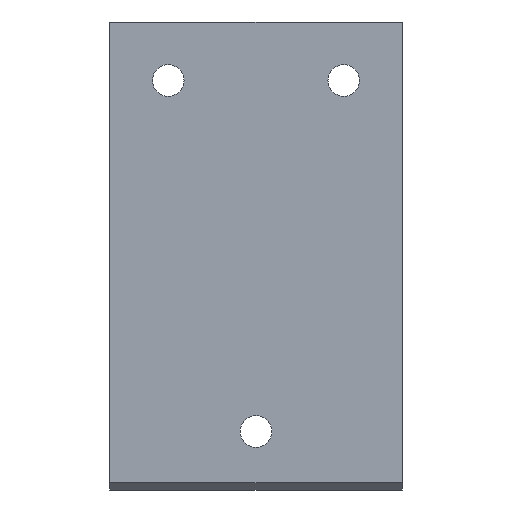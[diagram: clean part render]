
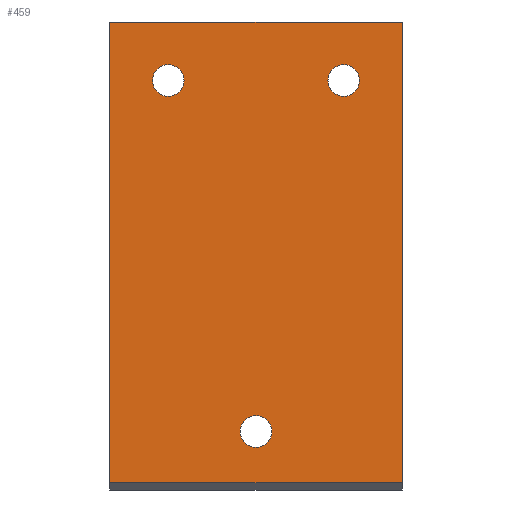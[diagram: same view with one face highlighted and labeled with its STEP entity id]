
A CAD part, left-side view. The second image highlights one B-rep face of the part: STEP entity #459.
In plain terms, the highlighted planar face has unit normal (-1, 0, 0).
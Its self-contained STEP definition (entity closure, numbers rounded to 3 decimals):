
#8 = EDGE_CURVE ( 'NONE', #5713, #4499, #3887, .T. ) ;
#28 = DIRECTION ( 'NONE',  ( 1., 0., 0. ) ) ;
#117 = DIRECTION ( 'NONE',  ( 0., 1., 0. ) ) ;
#143 = DIRECTION ( 'NONE',  ( 1., 0., 0. ) ) ;
#157 = CARTESIAN_POINT ( 'NONE',  ( 0., 0., 101.5 ) ) ;
#168 = CARTESIAN_POINT ( 'NONE',  ( 0., 0., 0. ) ) ;
#459 = ADVANCED_FACE ( 'NONE', ( #6992, #852, #1039, #5416 ), #3411, .F. ) ;
#494 = CARTESIAN_POINT ( 'NONE',  ( 0., 125., 3. ) ) ;
#694 = EDGE_LOOP ( 'NONE', ( #7690, #2822 ) ) ;
#754 = EDGE_CURVE ( 'NONE', #1990, #2594, #4668, .T. ) ;
#816 = DIRECTION ( 'NONE',  ( 1., 0., 0. ) ) ;
#852 = FACE_BOUND ( 'NONE', #1809, .T. ) ;
#964 = ORIENTED_EDGE ( 'NONE', *, *, #7516, .T. ) ;
#1039 = FACE_BOUND ( 'NONE', #694, .T. ) ;
#1058 = VERTEX_POINT ( 'NONE', #1382 ) ;
#1108 = CARTESIAN_POINT ( 'NONE',  ( 0., 100., 175. ) ) ;
#1231 = CARTESIAN_POINT ( 'NONE',  ( 0., 62.5, 25. ) ) ;
#1242 = DIRECTION ( 'NONE',  ( 0., -1., 0. ) ) ;
#1345 = LINE ( 'NONE', #2258, #4369 ) ;
#1382 = CARTESIAN_POINT ( 'NONE',  ( 0., 0., 3. ) ) ;
#1420 = ORIENTED_EDGE ( 'NONE', *, *, #1846, .F. ) ;
#1499 = CARTESIAN_POINT ( 'NONE',  ( 0., 18.25, 175. ) ) ;
#1547 = VECTOR ( 'NONE', #3423, 1000. ) ;
#1564 = DIRECTION ( 'NONE',  ( 1., 0., 0. ) ) ;
#1809 = EDGE_LOOP ( 'NONE', ( #6356, #6956 ) ) ;
#1827 = DIRECTION ( 'NONE',  ( 0., -1., 0. ) ) ;
#1846 = EDGE_CURVE ( 'NONE', #1893, #6765, #4754, .T. ) ;
#1893 = VERTEX_POINT ( 'NONE', #494 ) ;
#1975 = DIRECTION ( 'NONE',  ( 0., 0., -1. ) ) ;
#1990 = VERTEX_POINT ( 'NONE', #1499 ) ;
#2086 = VECTOR ( 'NONE', #1975, 1000. ) ;
#2246 = ORIENTED_EDGE ( 'NONE', *, *, #3257, .F. ) ;
#2258 = CARTESIAN_POINT ( 'NONE',  ( 0., 62.5, 200. ) ) ;
#2298 = DIRECTION ( 'NONE',  ( 1., 0., 0. ) ) ;
#2456 = AXIS2_PLACEMENT_3D ( 'NONE', #5129, #1564, #5727 ) ;
#2594 = VERTEX_POINT ( 'NONE', #6191 ) ;
#2636 = CIRCLE ( 'NONE', #5873, 6.75 ) ;
#2749 = EDGE_CURVE ( 'NONE', #1058, #1893, #5528, .T. ) ;
#2822 = ORIENTED_EDGE ( 'NONE', *, *, #7749, .T. ) ;
#3044 = EDGE_CURVE ( 'NONE', #6765, #6235, #1345, .T. ) ;
#3257 = EDGE_CURVE ( 'NONE', #6235, #1058, #7014, .T. ) ;
#3411 = PLANE ( 'NONE',  #5204 ) ;
#3423 = DIRECTION ( 'NONE',  ( 0., 0., 1. ) ) ;
#3483 = VERTEX_POINT ( 'NONE', #6928 ) ;
#3601 = AXIS2_PLACEMENT_3D ( 'NONE', #5848, #2298, #6424 ) ;
#3641 = CARTESIAN_POINT ( 'NONE',  ( 0., 62.5, 25. ) ) ;
#3750 = EDGE_LOOP ( 'NONE', ( #964, #6178 ) ) ;
#3840 = AXIS2_PLACEMENT_3D ( 'NONE', #1231, #5386, #1827 ) ;
#3870 = CIRCLE ( 'NONE', #3601, 6.75 ) ;
#3887 = CIRCLE ( 'NONE', #7668, 6.75 ) ;
#3960 = CARTESIAN_POINT ( 'NONE',  ( 0., 125., 101.5 ) ) ;
#3990 = VECTOR ( 'NONE', #4427, 1000. ) ;
#4077 = CARTESIAN_POINT ( 'NONE',  ( 0., 55.75, 25. ) ) ;
#4091 = CARTESIAN_POINT ( 'NONE',  ( 0., 106.75, 175. ) ) ;
#4135 = VERTEX_POINT ( 'NONE', #4077 ) ;
#4250 = DIRECTION ( 'NONE',  ( 0., -1., 0. ) ) ;
#4295 = EDGE_CURVE ( 'NONE', #4135, #3483, #6079, .T. ) ;
#4320 = EDGE_LOOP ( 'NONE', ( #7317, #2246, #5476, #1420 ) ) ;
#4369 = VECTOR ( 'NONE', #6386, 1000. ) ;
#4427 = DIRECTION ( 'NONE',  ( 0., 1., 0. ) ) ;
#4499 = VERTEX_POINT ( 'NONE', #6390 ) ;
#4668 = CIRCLE ( 'NONE', #5459, 6.75 ) ;
#4713 = CARTESIAN_POINT ( 'NONE',  ( 0., 62.5, 3. ) ) ;
#4754 = LINE ( 'NONE', #3960, #1547 ) ;
#5043 = CIRCLE ( 'NONE', #2456, 6.75 ) ;
#5129 = CARTESIAN_POINT ( 'NONE',  ( 0., 25., 175. ) ) ;
#5204 = AXIS2_PLACEMENT_3D ( 'NONE', #168, #143, #117 ) ;
#5371 = CARTESIAN_POINT ( 'NONE',  ( 0., 0., 200. ) ) ;
#5386 = DIRECTION ( 'NONE',  ( 1., 0., 0. ) ) ;
#5416 = FACE_BOUND ( 'NONE', #3750, .T. ) ;
#5459 = AXIS2_PLACEMENT_3D ( 'NONE', #5735, #5746, #5759 ) ;
#5476 = ORIENTED_EDGE ( 'NONE', *, *, #3044, .F. ) ;
#5528 = LINE ( 'NONE', #4713, #3990 ) ;
#5713 = VERTEX_POINT ( 'NONE', #4091 ) ;
#5727 = DIRECTION ( 'NONE',  ( 0., 1., 0. ) ) ;
#5735 = CARTESIAN_POINT ( 'NONE',  ( 0., 25., 175. ) ) ;
#5746 = DIRECTION ( 'NONE',  ( 1., 0., 0. ) ) ;
#5759 = DIRECTION ( 'NONE',  ( 0., 1., 0. ) ) ;
#5848 = CARTESIAN_POINT ( 'NONE',  ( 0., 100., 175. ) ) ;
#5873 = AXIS2_PLACEMENT_3D ( 'NONE', #3641, #28, #4250 ) ;
#6012 = CARTESIAN_POINT ( 'NONE',  ( 0., 125., 200. ) ) ;
#6079 = CIRCLE ( 'NONE', #3840, 6.75 ) ;
#6178 = ORIENTED_EDGE ( 'NONE', *, *, #4295, .T. ) ;
#6191 = CARTESIAN_POINT ( 'NONE',  ( 0., 31.75, 175. ) ) ;
#6235 = VERTEX_POINT ( 'NONE', #5371 ) ;
#6356 = ORIENTED_EDGE ( 'NONE', *, *, #754, .T. ) ;
#6386 = DIRECTION ( 'NONE',  ( 0., -1., 0. ) ) ;
#6390 = CARTESIAN_POINT ( 'NONE',  ( 0., 93.25, 175. ) ) ;
#6424 = DIRECTION ( 'NONE',  ( 0., -1., 0. ) ) ;
#6765 = VERTEX_POINT ( 'NONE', #6012 ) ;
#6928 = CARTESIAN_POINT ( 'NONE',  ( 0., 69.25, 25. ) ) ;
#6956 = ORIENTED_EDGE ( 'NONE', *, *, #7243, .T. ) ;
#6992 = FACE_OUTER_BOUND ( 'NONE', #4320, .T. ) ;
#7014 = LINE ( 'NONE', #157, #2086 ) ;
#7243 = EDGE_CURVE ( 'NONE', #2594, #1990, #5043, .T. ) ;
#7317 = ORIENTED_EDGE ( 'NONE', *, *, #2749, .F. ) ;
#7516 = EDGE_CURVE ( 'NONE', #3483, #4135, #2636, .T. ) ;
#7668 = AXIS2_PLACEMENT_3D ( 'NONE', #1108, #816, #1242 ) ;
#7690 = ORIENTED_EDGE ( 'NONE', *, *, #8, .T. ) ;
#7749 = EDGE_CURVE ( 'NONE', #4499, #5713, #3870, .T. ) ;
